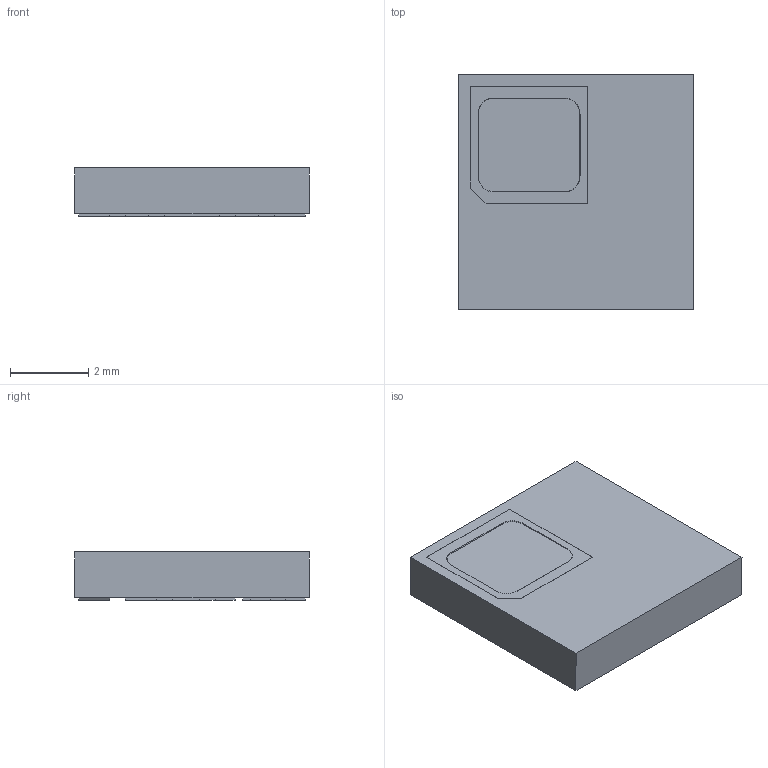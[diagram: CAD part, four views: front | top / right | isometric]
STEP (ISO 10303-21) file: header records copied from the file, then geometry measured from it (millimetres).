
FILE_DESCRIPTION(('STEP AP203'),'1');
FILE_NAME('D:/3. Prosource/240423 A3E-THG from S6RTB-THG/A3E-THG_090823.stp','2024-04-25T04:17:39',(' '),(' '),'Spatial InterOp 3D',' ',' ');
FILE_SCHEMA(('CONFIG_CONTROL_DESIGN'));
Length unit declared in the file: millimetre
Products named in the file (1): 1
Bounding box: 6 x 6 x 1.23 mm (x, y, z)
Volume: 43.3 mm3; surface area: 116.6 mm2
Topology: 1 solids, 2 shells, 183 faces, 478 edges, 320 vertices
Faces by surface type: plane 159, cylinder 24
Entity records: 5622 total; most frequent: CARTESIAN_POINT 982, ORIENTED_EDGE 956, DIRECTION 894, EDGE_CURVE 478, LINE 430, VECTOR 430, VERTEX_POINT 320, AXIS2_PLACEMENT_3D 232
